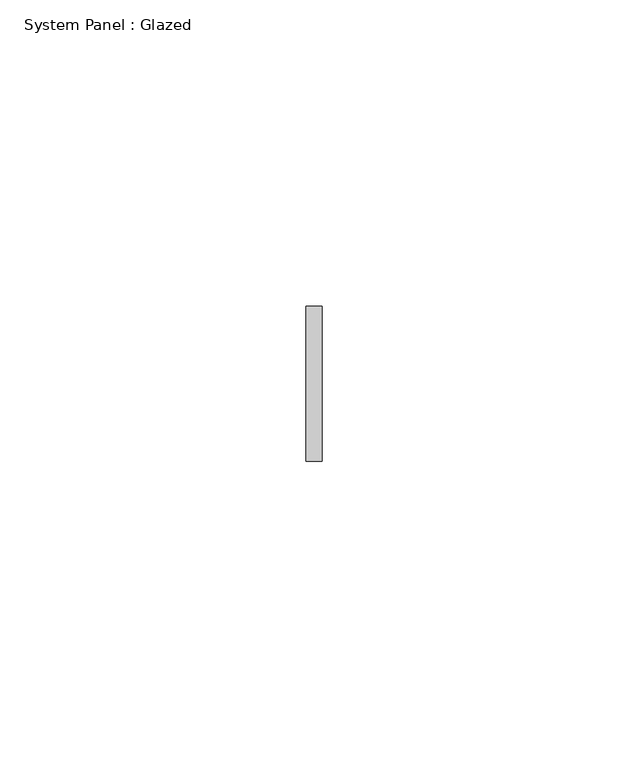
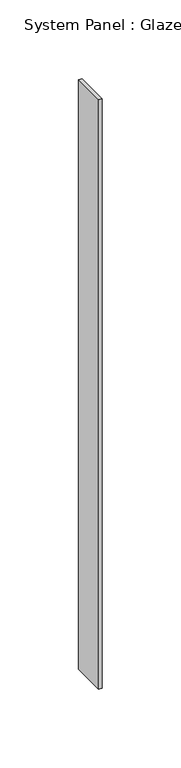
"""IFC4 building model written with IfcOpenShell, lengths in millimetres: plate geometry, System Panel : Glazed."""

from ifc_helpers import new_model, si_unit, origin, origin_with_axes, place, context, project, spatial, polyline, outline, extrude, source, transform, mapped, element, save


def system_panel_glazed_ede9580b(model_context):
    return source(origin(), model_context, "Body", "SweptSolid", [
        extrude(outline(polyline([(1.3231587, -44.45), (-1.3231587, -44.45), (-1.3231587, -19.05), (1.3231587, -19.05), (1.3231587, -44.45)])), origin_with_axes(), (0.0, 0.0, 1.0), 457.2),
    ])


if __name__ == "__main__":
    model = new_model("IFC4")
    model_context = context("Model", 3, world=origin())
    ifc_project = project(units=[si_unit("LENGTHUNIT", "METRE", prefix="MILLI")], contexts=[model_context])
    site = spatial("IfcSite", under=ifc_project)
    building = spatial("IfcBuilding", under=site)
    placement = place(None, origin())
    system_panel_glazed_shape = system_panel_glazed_ede9580b(model_context)
    element("IfcPlate", 1, ObjectType="System Panel : Glazed", at=placement, inside=building, context=model_context, shape_type="MappedRepresentation", body=[
        mapped(system_panel_glazed_shape, transform((0.0, 0.0, 0.0), x_axis=(1.0, 0.0, 0.0), y_axis=(0.0, 1.0, 0.0), z_axis=(0.0, 0.0, 1.0))),
    ])
    save(model, "model.ifc")
